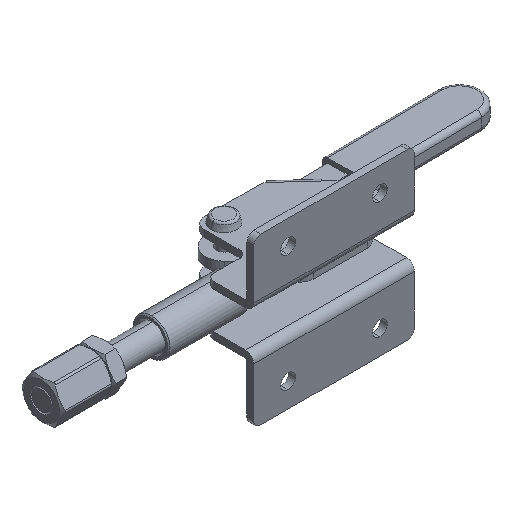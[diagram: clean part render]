
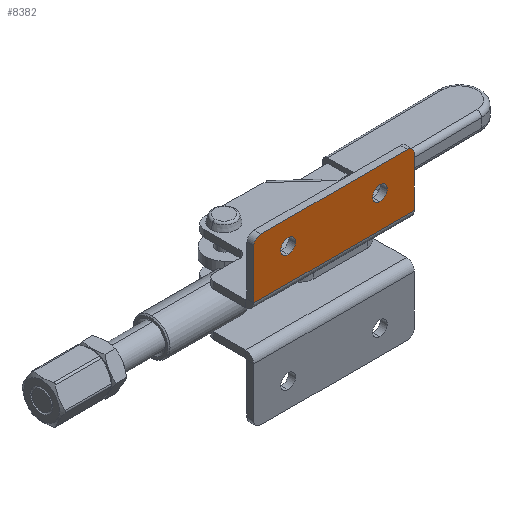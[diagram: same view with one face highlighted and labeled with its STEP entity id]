
A CAD part, isometric view. The second image highlights one B-rep face of the part: STEP entity #8382.
In plain terms, the highlighted planar face has unit normal (0, -1, 0).
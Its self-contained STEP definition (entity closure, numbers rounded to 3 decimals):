
#19 = DIRECTION ( 'NONE',  ( 1., 0., 0. ) ) ;
#80 = EDGE_CURVE ( 'NONE', #8167, #8629, #1155, .T. ) ;
#142 = VERTEX_POINT ( 'NONE', #2958 ) ;
#285 = CARTESIAN_POINT ( 'NONE',  ( 0., -3., 0.5 ) ) ;
#336 = AXIS2_PLACEMENT_3D ( 'NONE', #576, #5432, #1263 ) ;
#423 = CARTESIAN_POINT ( 'NONE',  ( -55., -3., 14.5 ) ) ;
#455 = LINE ( 'NONE', #7677, #3930 ) ;
#470 = EDGE_CURVE ( 'NONE', #4385, #142, #4319, .T. ) ;
#562 = VERTEX_POINT ( 'NONE', #8588 ) ;
#576 = CARTESIAN_POINT ( 'NONE',  ( -15., -3., 14.5 ) ) ;
#611 = CARTESIAN_POINT ( 'NONE',  ( -15., -3., 14.5 ) ) ;
#775 = CIRCLE ( 'NONE', #336, 3.2 ) ;
#948 = CARTESIAN_POINT ( 'NONE',  ( -70., -3., 0.5 ) ) ;
#975 = ORIENTED_EDGE ( 'NONE', *, *, #3736, .T. ) ;
#1014 = CARTESIAN_POINT ( 'NONE',  ( -3., -3., 22. ) ) ;
#1127 = DIRECTION ( 'NONE',  ( 0., 0., 1. ) ) ;
#1155 = CIRCLE ( 'NONE', #6209, 3.2 ) ;
#1263 = DIRECTION ( 'NONE',  ( 0., 0., 1. ) ) ;
#1292 = FACE_OUTER_BOUND ( 'NONE', #6145, .T. ) ;
#1295 = DIRECTION ( 'NONE',  ( 0., 0., 1. ) ) ;
#1593 = VERTEX_POINT ( 'NONE', #5030 ) ;
#1711 = DIRECTION ( 'NONE',  ( 0., 0., -1. ) ) ;
#1771 = ORIENTED_EDGE ( 'NONE', *, *, #5052, .T. ) ;
#1806 = DIRECTION ( 'NONE',  ( 0., 0., -1. ) ) ;
#1911 = EDGE_CURVE ( 'NONE', #4361, #2404, #5498, .T. ) ;
#2093 = EDGE_LOOP ( 'NONE', ( #1771, #3087 ) ) ;
#2117 = ORIENTED_EDGE ( 'NONE', *, *, #2196, .T. ) ;
#2158 = DIRECTION ( 'NONE',  ( 0., -1., 0. ) ) ;
#2196 = EDGE_CURVE ( 'NONE', #142, #2378, #5146, .T. ) ;
#2235 = AXIS2_PLACEMENT_3D ( 'NONE', #7140, #2970, #7830 ) ;
#2378 = VERTEX_POINT ( 'NONE', #948 ) ;
#2404 = VERTEX_POINT ( 'NONE', #285 ) ;
#2958 = CARTESIAN_POINT ( 'NONE',  ( -70., -3., 22. ) ) ;
#2970 = DIRECTION ( 'NONE',  ( 0., 1., 0. ) ) ;
#2982 = AXIS2_PLACEMENT_3D ( 'NONE', #7062, #7720, #8454 ) ;
#3087 = ORIENTED_EDGE ( 'NONE', *, *, #6003, .T. ) ;
#3243 = DIRECTION ( 'NONE',  ( 0., 0., -1. ) ) ;
#3292 = VECTOR ( 'NONE', #4728, 1000. ) ;
#3317 = CARTESIAN_POINT ( 'NONE',  ( 0., -3., 22. ) ) ;
#3582 = PLANE ( 'NONE',  #2982 ) ;
#3627 = EDGE_CURVE ( 'NONE', #4385, #1593, #455, .T. ) ;
#3736 = EDGE_CURVE ( 'NONE', #2378, #2404, #7021, .T. ) ;
#3930 = VECTOR ( 'NONE', #19, 1000. ) ;
#4005 = VERTEX_POINT ( 'NONE', #8414 ) ;
#4047 = CARTESIAN_POINT ( 'NONE',  ( -67., -3., 25. ) ) ;
#4319 = CIRCLE ( 'NONE', #4605, 3. ) ;
#4361 = VERTEX_POINT ( 'NONE', #3317 ) ;
#4385 = VERTEX_POINT ( 'NONE', #4047 ) ;
#4605 = AXIS2_PLACEMENT_3D ( 'NONE', #6323, #2158, #7020 ) ;
#4728 = DIRECTION ( 'NONE',  ( 1., 0., 0. ) ) ;
#4777 = FACE_BOUND ( 'NONE', #2093, .T. ) ;
#4958 = VECTOR ( 'NONE', #3243, 1000. ) ;
#5030 = CARTESIAN_POINT ( 'NONE',  ( -3., -3., 25. ) ) ;
#5052 = EDGE_CURVE ( 'NONE', #4005, #562, #7522, .T. ) ;
#5083 = ORIENTED_EDGE ( 'NONE', *, *, #470, .T. ) ;
#5146 = LINE ( 'NONE', #6752, #4958 ) ;
#5201 = ORIENTED_EDGE ( 'NONE', *, *, #3627, .F. ) ;
#5268 = EDGE_LOOP ( 'NONE', ( #8210, #6882 ) ) ;
#5287 = DIRECTION ( 'NONE',  ( 0., 1., 0. ) ) ;
#5336 = ORIENTED_EDGE ( 'NONE', *, *, #6424, .T. ) ;
#5432 = DIRECTION ( 'NONE',  ( 0., 1., 0. ) ) ;
#5463 = DIRECTION ( 'NONE',  ( 0., 1., 0. ) ) ;
#5498 = LINE ( 'NONE', #6651, #8541 ) ;
#5894 = DIRECTION ( 'NONE',  ( 0., -1., 0. ) ) ;
#6003 = EDGE_CURVE ( 'NONE', #562, #4005, #8648, .T. ) ;
#6145 = EDGE_LOOP ( 'NONE', ( #7307, #5336, #5201, #5083, #2117, #975 ) ) ;
#6209 = AXIS2_PLACEMENT_3D ( 'NONE', #611, #5463, #1295 ) ;
#6286 = CIRCLE ( 'NONE', #7629, 3. ) ;
#6323 = CARTESIAN_POINT ( 'NONE',  ( -67., -3., 22. ) ) ;
#6424 = EDGE_CURVE ( 'NONE', #4361, #1593, #6286, .T. ) ;
#6651 = CARTESIAN_POINT ( 'NONE',  ( 0., -3., 0. ) ) ;
#6752 = CARTESIAN_POINT ( 'NONE',  ( -70., -3., 0. ) ) ;
#6882 = ORIENTED_EDGE ( 'NONE', *, *, #80, .T. ) ;
#7020 = DIRECTION ( 'NONE',  ( 0., 0., -1. ) ) ;
#7021 = LINE ( 'NONE', #7491, #3292 ) ;
#7062 = CARTESIAN_POINT ( 'NONE',  ( -70., -3., 0. ) ) ;
#7140 = CARTESIAN_POINT ( 'NONE',  ( -55., -3., 14.5 ) ) ;
#7307 = ORIENTED_EDGE ( 'NONE', *, *, #1911, .F. ) ;
#7491 = CARTESIAN_POINT ( 'NONE',  ( -70., -3., 0.5 ) ) ;
#7522 = CIRCLE ( 'NONE', #7815, 3.2 ) ;
#7629 = AXIS2_PLACEMENT_3D ( 'NONE', #1014, #5894, #1711 ) ;
#7677 = CARTESIAN_POINT ( 'NONE',  ( -70., -3., 25. ) ) ;
#7720 = DIRECTION ( 'NONE',  ( 0., -1., 0. ) ) ;
#7815 = AXIS2_PLACEMENT_3D ( 'NONE', #423, #5287, #1127 ) ;
#7830 = DIRECTION ( 'NONE',  ( 0., 0., 1. ) ) ;
#8167 = VERTEX_POINT ( 'NONE', #8876 ) ;
#8203 = EDGE_CURVE ( 'NONE', #8629, #8167, #775, .T. ) ;
#8210 = ORIENTED_EDGE ( 'NONE', *, *, #8203, .T. ) ;
#8382 = ADVANCED_FACE ( 'NONE', ( #8485, #4777, #1292 ), #3582, .T. ) ;
#8414 = CARTESIAN_POINT ( 'NONE',  ( -55., -3., 17.7 ) ) ;
#8454 = DIRECTION ( 'NONE',  ( 0., 0., -1. ) ) ;
#8485 = FACE_BOUND ( 'NONE', #5268, .T. ) ;
#8541 = VECTOR ( 'NONE', #1806, 1000. ) ;
#8588 = CARTESIAN_POINT ( 'NONE',  ( -55., -3., 11.3 ) ) ;
#8613 = CARTESIAN_POINT ( 'NONE',  ( -15., -3., 17.7 ) ) ;
#8629 = VERTEX_POINT ( 'NONE', #8613 ) ;
#8648 = CIRCLE ( 'NONE', #2235, 3.2 ) ;
#8876 = CARTESIAN_POINT ( 'NONE',  ( -15., -3., 11.3 ) ) ;
